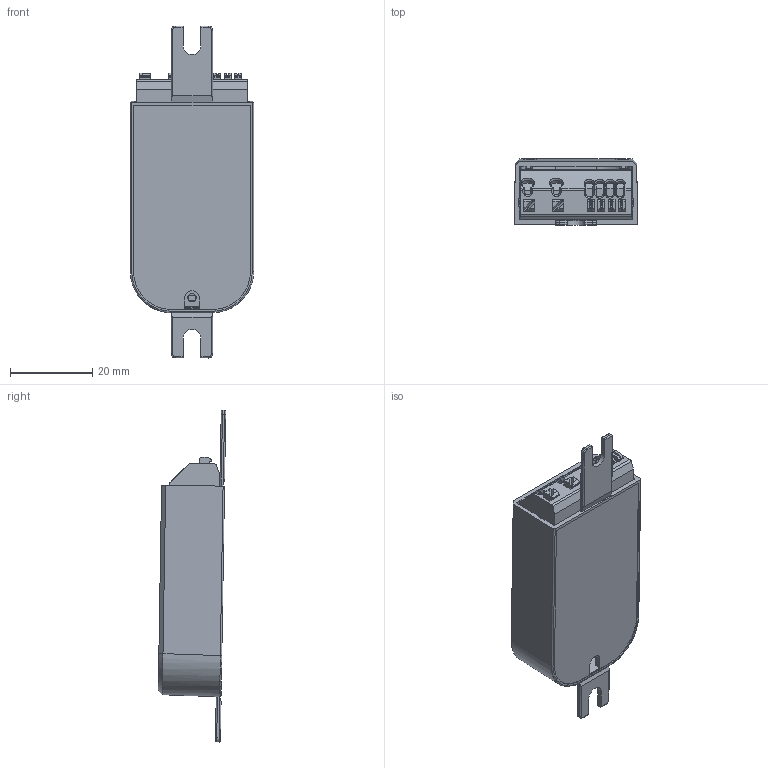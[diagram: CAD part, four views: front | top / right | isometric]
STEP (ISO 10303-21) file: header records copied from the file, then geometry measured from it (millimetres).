
FILE_DESCRIPTION((''),'2;1');
FILE_NAME('15012860_00','2018-11-07T10:29:54',('elon.guo'),(''),'CREO PARAMETRIC BY PTC INC, 2017380','CREO PARAMETRIC BY PTC INC, 2017380','');
FILE_SCHEMA(('AUTOMOTIVE_DESIGN { 1 0 10303 214 1 1 1 1 }'));
Length unit declared in the file: millimetre
Products named in the file (1): 15012860_00
Bounding box: 29.99 x 16.4 x 80.69 mm (x, y, z)
Volume: 10374.1 mm3; surface area: 13998.9 mm2
Topology: 2 solids, 4 shells, 471 faces, 1300 edges, 852 vertices
Faces by surface type: plane 337, cylinder 102, cone 14, torus 10, bspline 6, extrusion 2
Entity records: 23354 total; most frequent: CARTESIAN_POINT 3544, ORIENTED_EDGE 2600, DIRECTION 2305, PRESENTATION_STYLE_ASSIGNMENT 1775, STYLED_ITEM 1304, CURVE_STYLE 1302, EDGE_CURVE 1300, VECTOR 973
